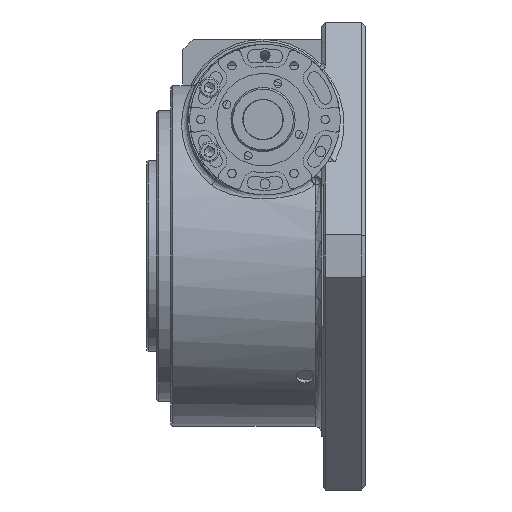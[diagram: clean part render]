
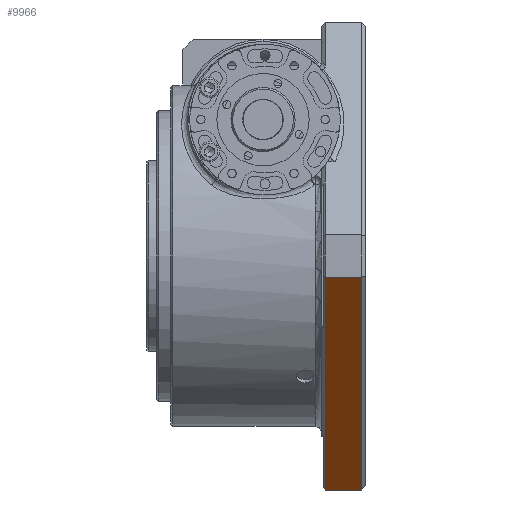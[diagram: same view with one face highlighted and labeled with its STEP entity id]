
A CAD part, left-side view. The second image highlights one B-rep face of the part: STEP entity #9966.
In plain terms, the highlighted planar face has unit normal (-0.707, 0, -0.707).
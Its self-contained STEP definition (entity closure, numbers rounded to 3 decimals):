
#218 = ORIENTED_EDGE ( 'NONE', *, *, #22160, .T. ) ;
#1344 = ORIENTED_EDGE ( 'NONE', *, *, #16739, .T. ) ;
#3435 = CARTESIAN_POINT ( 'NONE',  ( -156.536, -27.868, -10.607 ) ) ;
#3934 = AXIS2_PLACEMENT_3D ( 'NONE', #29184, #22729, #29590 ) ;
#4262 = DIRECTION ( 'NONE',  ( 0., 1., 0. ) ) ;
#4351 = DIRECTION ( 'NONE',  ( 0.707, 0., -0.707 ) ) ;
#8028 = LINE ( 'NONE', #24923, #15098 ) ;
#9057 = DIRECTION ( 'NONE',  ( 0., -1., 0. ) ) ;
#9389 = CARTESIAN_POINT ( 'NONE',  ( -156.536, -29.868, -10.607 ) ) ;
#9966 = ADVANCED_FACE ( 'NONE', ( #16128 ), #32716, .F. ) ;
#10473 = CARTESIAN_POINT ( 'NONE',  ( -39.864, -47.868, -127.279 ) ) ;
#11088 = LINE ( 'NONE', #3435, #12565 ) ;
#11423 = VERTEX_POINT ( 'NONE', #9389 ) ;
#12565 = VECTOR ( 'NONE', #4262, 1000. ) ;
#13304 = CARTESIAN_POINT ( 'NONE',  ( -156.536, -47.868, -10.607 ) ) ;
#14148 = CARTESIAN_POINT ( 'NONE',  ( -50.47, -29.868, -116.673 ) ) ;
#15098 = VECTOR ( 'NONE', #9057, 1000. ) ;
#15949 = EDGE_CURVE ( 'NONE', #11423, #35553, #24677, .T. ) ;
#16128 = FACE_OUTER_BOUND ( 'NONE', #18683, .T. ) ;
#16739 = EDGE_CURVE ( 'NONE', #35553, #21988, #8028, .T. ) ;
#17755 = LINE ( 'NONE', #10473, #20234 ) ;
#18442 = CARTESIAN_POINT ( 'NONE',  ( -50.47, -47.868, -116.673 ) ) ;
#18683 = EDGE_LOOP ( 'NONE', ( #1344, #218, #33613, #22428 ) ) ;
#20234 = VECTOR ( 'NONE', #36372, 1000. ) ;
#21988 = VERTEX_POINT ( 'NONE', #18442 ) ;
#22160 = EDGE_CURVE ( 'NONE', #21988, #41787, #17755, .T. ) ;
#22428 = ORIENTED_EDGE ( 'NONE', *, *, #15949, .T. ) ;
#22729 = DIRECTION ( 'NONE',  ( 0.707, 0., 0.707 ) ) ;
#24677 = LINE ( 'NONE', #33451, #31755 ) ;
#24726 = EDGE_CURVE ( 'NONE', #41787, #11423, #11088, .T. ) ;
#24923 = CARTESIAN_POINT ( 'NONE',  ( -50.47, -27.868, -116.673 ) ) ;
#29184 = CARTESIAN_POINT ( 'NONE',  ( -39.864, -27.868, -127.279 ) ) ;
#29590 = DIRECTION ( 'NONE',  ( 0.707, 0., -0.707 ) ) ;
#31755 = VECTOR ( 'NONE', #4351, 1000. ) ;
#32716 = PLANE ( 'NONE',  #3934 ) ;
#33451 = CARTESIAN_POINT ( 'NONE',  ( -50.47, -29.868, -116.673 ) ) ;
#33613 = ORIENTED_EDGE ( 'NONE', *, *, #24726, .T. ) ;
#35553 = VERTEX_POINT ( 'NONE', #14148 ) ;
#36372 = DIRECTION ( 'NONE',  ( -0.707, 0., 0.707 ) ) ;
#41787 = VERTEX_POINT ( 'NONE', #13304 ) ;
